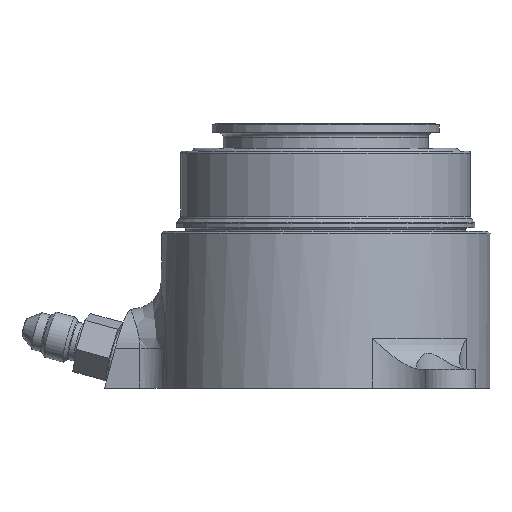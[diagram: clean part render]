
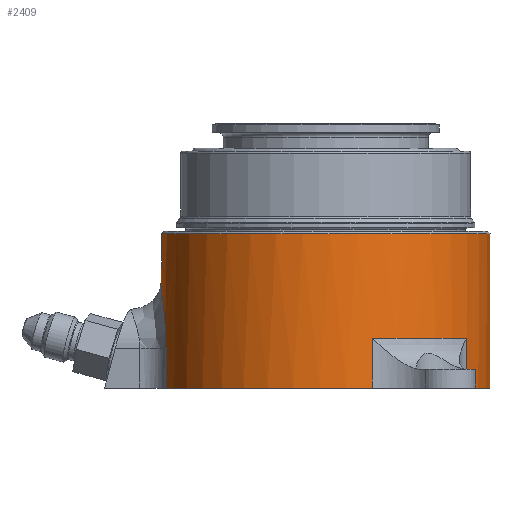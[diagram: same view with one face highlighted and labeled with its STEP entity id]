
A CAD part, left-side view. The second image highlights one B-rep face of the part: STEP entity #2409.
In plain terms, the highlighted cylindrical face has radius 33.528 mm (diameter 67.056 mm), a full revolution.
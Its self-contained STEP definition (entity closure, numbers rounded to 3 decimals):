
#31=B_SPLINE_CURVE_WITH_KNOTS('',3,(#3661,#3662,#3663,#3664,#3665,#3666,
#3667,#3668,#3669,#3670,#3671),.UNSPECIFIED.,.F.,.F.,(4,1,1,1,1,1,1,1,4),
(0.,0.125,0.25,0.375,0.5,0.625,0.75,0.875,1.),.UNSPECIFIED.);
#34=B_SPLINE_CURVE_WITH_KNOTS('',3,(#3765,#3766,#3767,#3768,#3769,#3770,
#3771,#3772,#3773,#3774,#3775),.UNSPECIFIED.,.F.,.F.,(4,1,1,1,1,1,1,1,4),
(0.,0.125,0.25,0.375,0.5,0.625,0.75,0.875,1.),.UNSPECIFIED.);
#67=LINE('',#3700,#137);
#70=LINE('',#3710,#140);
#72=LINE('',#3718,#142);
#79=LINE('',#3736,#149);
#80=LINE('',#3738,#150);
#83=LINE('',#3748,#153);
#84=LINE('',#3763,#154);
#85=LINE('',#3777,#155);
#137=VECTOR('',#2934,1000.);
#140=VECTOR('',#2945,1000.);
#142=VECTOR('',#2953,1000.);
#149=VECTOR('',#2972,1000.);
#150=VECTOR('',#2975,1000.);
#153=VECTOR('',#2986,1000.);
#154=VECTOR('',#3005,1000.);
#155=VECTOR('',#3006,1000.);
#467=ORIENTED_EDGE('',*,*,#716,.T.);
#468=ORIENTED_EDGE('',*,*,#721,.T.);
#469=ORIENTED_EDGE('',*,*,#727,.T.);
#470=ORIENTED_EDGE('',*,*,#756,.F.);
#471=ORIENTED_EDGE('',*,*,#757,.F.);
#472=ORIENTED_EDGE('',*,*,#758,.F.);
#473=ORIENTED_EDGE('',*,*,#759,.F.);
#474=ORIENTED_EDGE('',*,*,#760,.F.);
#475=ORIENTED_EDGE('',*,*,#751,.T.);
#476=ORIENTED_EDGE('',*,*,#714,.T.);
#477=ORIENTED_EDGE('',*,*,#746,.T.);
#478=ORIENTED_EDGE('',*,*,#761,.F.);
#479=ORIENTED_EDGE('',*,*,#745,.T.);
#480=ORIENTED_EDGE('',*,*,#719,.T.);
#481=ORIENTED_EDGE('',*,*,#736,.T.);
#482=ORIENTED_EDGE('',*,*,#762,.F.);
#483=ORIENTED_EDGE('',*,*,#732,.T.);
#714=EDGE_CURVE('',#895,#894,#1025,.T.);
#716=EDGE_CURVE('',#896,#896,#1026,.T.);
#719=EDGE_CURVE('',#897,#898,#31,.T.);
#721=EDGE_CURVE('',#900,#899,#1027,.T.);
#727=EDGE_CURVE('',#899,#905,#67,.T.);
#732=EDGE_CURVE('',#908,#900,#70,.F.);
#736=EDGE_CURVE('',#898,#910,#72,.F.);
#745=EDGE_CURVE('',#915,#897,#79,.T.);
#746=EDGE_CURVE('',#894,#916,#80,.T.);
#751=EDGE_CURVE('',#919,#895,#83,.F.);
#756=EDGE_CURVE('',#923,#905,#1040,.T.);
#757=EDGE_CURVE('',#924,#923,#84,.F.);
#758=EDGE_CURVE('',#925,#924,#34,.F.);
#759=EDGE_CURVE('',#926,#925,#85,.T.);
#760=EDGE_CURVE('',#919,#926,#1041,.T.);
#761=EDGE_CURVE('',#915,#916,#1042,.T.);
#762=EDGE_CURVE('',#908,#910,#1043,.T.);
#894=VERTEX_POINT('',#3486);
#895=VERTEX_POINT('',#3488);
#896=VERTEX_POINT('',#3498);
#897=VERTEX_POINT('',#3654);
#898=VERTEX_POINT('',#3660);
#899=VERTEX_POINT('',#3680);
#900=VERTEX_POINT('',#3682);
#905=VERTEX_POINT('',#3701);
#908=VERTEX_POINT('',#3711);
#910=VERTEX_POINT('',#3717);
#915=VERTEX_POINT('',#3735);
#916=VERTEX_POINT('',#3739);
#919=VERTEX_POINT('',#3749);
#923=VERTEX_POINT('',#3762);
#924=VERTEX_POINT('',#3764);
#925=VERTEX_POINT('',#3776);
#926=VERTEX_POINT('',#3778);
#1025=CIRCLE('',#2566,33.528);
#1026=CIRCLE('',#2568,33.528);
#1027=CIRCLE('',#2570,33.528);
#1040=CIRCLE('',#2599,33.528);
#1041=CIRCLE('',#2600,33.528);
#1042=CIRCLE('',#2601,33.528);
#1043=CIRCLE('',#2602,33.528);
#1191=EDGE_LOOP('',(#467));
#1192=EDGE_LOOP('',(#468,#469,#470,#471,#472,#473,#474,#475,#476,#477,#478,
#479,#480,#481,#482,#483));
#1391=FACE_BOUND('',#1191,.T.);
#1392=FACE_BOUND('',#1192,.T.);
#1499=CYLINDRICAL_SURFACE('',#2598,33.528);
#2409=ADVANCED_FACE('',(#1391,#1392),#1499,.T.);
#2566=AXIS2_PLACEMENT_3D('',#3487,#2916,#2917);
#2568=AXIS2_PLACEMENT_3D('',#3497,#2920,#2921);
#2570=AXIS2_PLACEMENT_3D('',#3681,#2924,#2925);
#2598=AXIS2_PLACEMENT_3D('',#3760,#3001,#3002);
#2599=AXIS2_PLACEMENT_3D('',#3761,#3003,#3004);
#2600=AXIS2_PLACEMENT_3D('',#3779,#3007,#3008);
#2601=AXIS2_PLACEMENT_3D('',#3780,#3009,#3010);
#2602=AXIS2_PLACEMENT_3D('',#3781,#3011,#3012);
#2916=DIRECTION('',(0.,0.,1.));
#2917=DIRECTION('',(-0.791,-0.612,0.));
#2920=DIRECTION('',(0.,0.,-1.));
#2921=DIRECTION('',(0.791,0.612,0.));
#2924=DIRECTION('',(0.,0.,1.));
#2925=DIRECTION('',(-0.791,-0.612,0.));
#2934=DIRECTION('',(0.,0.,-1.));
#2945=DIRECTION('',(0.,0.,-1.));
#2953=DIRECTION('',(0.,0.,1.));
#2972=DIRECTION('',(0.,0.,1.));
#2975=DIRECTION('',(0.,0.,-1.));
#2986=DIRECTION('',(0.,0.,-1.));
#3001=DIRECTION('',(0.,0.,1.));
#3002=DIRECTION('',(-0.791,-0.612,0.));
#3003=DIRECTION('',(0.,0.,-1.));
#3004=DIRECTION('',(-0.612,0.791,0.));
#3005=DIRECTION('',(0.,0.,1.));
#3006=DIRECTION('',(0.,0.,1.));
#3007=DIRECTION('',(0.,0.,-1.));
#3008=DIRECTION('',(-0.612,0.791,0.));
#3009=DIRECTION('',(0.,0.,-1.));
#3010=DIRECTION('',(-0.612,0.791,0.));
#3011=DIRECTION('',(0.,0.,-1.));
#3012=DIRECTION('',(-0.612,0.791,0.));
#3486=CARTESIAN_POINT('',(-17.253,-28.748,34.315));
#3487=CARTESIAN_POINT('',(0.,0.,34.315));
#3488=CARTESIAN_POINT('',(-32.161,-9.475,34.315));
#3497=CARTESIAN_POINT('',(0.,0.,55.651));
#3498=CARTESIAN_POINT('',(26.52,20.514,55.651));
#3654=CARTESIAN_POINT('',(29.529,-15.88,32.284));
#3660=CARTESIAN_POINT('',(32.572,7.951,32.284));
#3661=CARTESIAN_POINT('',(29.529,-15.88,32.284));
#3662=CARTESIAN_POINT('',(29.529,-15.88,34.169));
#3663=CARTESIAN_POINT('',(29.865,-15.276,37.939));
#3664=CARTESIAN_POINT('',(31.074,-12.749,42.641));
#3665=CARTESIAN_POINT('',(32.419,-8.937,45.805));
#3666=CARTESIAN_POINT('',(33.373,-4.278,46.951));
#3667=CARTESIAN_POINT('',(33.625,0.488,45.816));
#3668=CARTESIAN_POINT('',(33.281,4.532,42.643));
#3669=CARTESIAN_POINT('',(32.746,7.278,37.943));
#3670=CARTESIAN_POINT('',(32.572,7.951,34.185));
#3671=CARTESIAN_POINT('',(32.572,7.951,32.284));
#3680=CARTESIAN_POINT('',(17.253,28.748,34.315));
#3681=CARTESIAN_POINT('',(0.,0.,34.315));
#3682=CARTESIAN_POINT('',(32.161,9.475,34.315));
#3700=CARTESIAN_POINT('',(17.253,28.748,29.235));
#3701=CARTESIAN_POINT('',(17.253,28.748,24.155));
#3710=CARTESIAN_POINT('',(32.161,9.475,29.235));
#3711=CARTESIAN_POINT('',(32.161,9.475,24.155));
#3717=CARTESIAN_POINT('',(32.572,7.951,24.155));
#3718=CARTESIAN_POINT('',(32.572,7.951,28.22));
#3735=CARTESIAN_POINT('',(29.529,-15.88,24.155));
#3736=CARTESIAN_POINT('',(29.529,-15.88,28.22));
#3738=CARTESIAN_POINT('',(-17.253,-28.748,29.235));
#3739=CARTESIAN_POINT('',(-17.253,-28.748,24.155));
#3748=CARTESIAN_POINT('',(-32.161,-9.475,29.235));
#3749=CARTESIAN_POINT('',(-32.161,-9.475,24.155));
#3760=CARTESIAN_POINT('',(0.,0.,44.295));
#3761=CARTESIAN_POINT('',(0.,0.,24.155));
#3762=CARTESIAN_POINT('',(15.88,29.529,24.155));
#3763=CARTESIAN_POINT('',(15.88,29.529,28.22));
#3764=CARTESIAN_POINT('',(15.88,29.529,32.284));
#3765=CARTESIAN_POINT('',(15.88,29.529,32.284));
#3766=CARTESIAN_POINT('',(15.88,29.529,34.169));
#3767=CARTESIAN_POINT('',(15.276,29.865,37.939));
#3768=CARTESIAN_POINT('',(12.749,31.074,42.641));
#3769=CARTESIAN_POINT('',(8.937,32.419,45.805));
#3770=CARTESIAN_POINT('',(4.278,33.373,46.951));
#3771=CARTESIAN_POINT('',(-0.488,33.625,45.816));
#3772=CARTESIAN_POINT('',(-4.532,33.281,42.643));
#3773=CARTESIAN_POINT('',(-7.278,32.746,37.943));
#3774=CARTESIAN_POINT('',(-7.951,32.572,34.185));
#3775=CARTESIAN_POINT('',(-7.951,32.572,32.284));
#3776=CARTESIAN_POINT('',(-7.951,32.572,32.284));
#3777=CARTESIAN_POINT('',(-7.951,32.572,28.22));
#3778=CARTESIAN_POINT('',(-7.951,32.572,24.155));
#3779=CARTESIAN_POINT('',(0.,0.,24.155));
#3780=CARTESIAN_POINT('',(0.,0.,24.155));
#3781=CARTESIAN_POINT('',(0.,0.,24.155));
